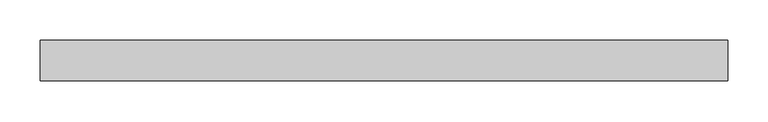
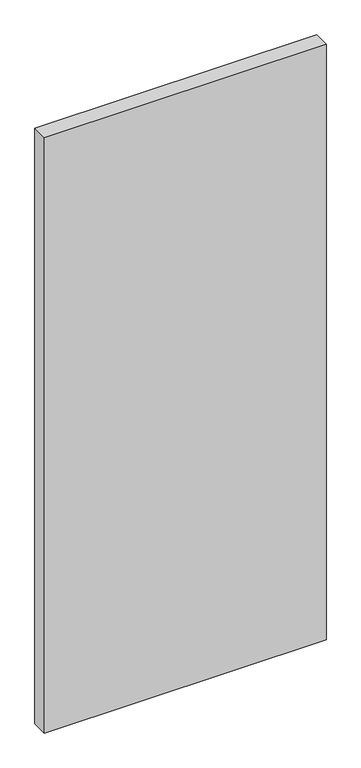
"""IFC4 building model written with IfcOpenShell, lengths in millimetres: plate geometry, Системная панель : Стекло(50мм)."""

from ifc_helpers import new_model, si_unit, origin, origin_with_axes, place, context, project, spatial, polyline, outline, extrude, source, transform, mapped, element, save


def plate_109dd5f9(model_context):
    return source(origin(), model_context, "Body", "SweptSolid", [
        extrude(outline(polyline([(425.0, -25.0), (-425.0, -25.0), (-425.0, 25.0), (425.0, 25.0), (425.0, -25.0)])), origin_with_axes(), (0.0, 0.0, 1.0), 1900.0),
    ])


if __name__ == "__main__":
    model = new_model("IFC4")
    model_context = context("Model", 3, world=origin())
    ifc_project = project(units=[si_unit("LENGTHUNIT", "METRE", prefix="MILLI")], contexts=[model_context])
    site = spatial("IfcSite", under=ifc_project)
    building = spatial("IfcBuilding", under=site)
    placement = place(None, origin())
    plate_shape = plate_109dd5f9(model_context)
    element("IfcPlate", 1, ObjectType="Системная панель : Стекло(50мм)", at=placement, inside=building, context=model_context, shape_type="MappedRepresentation", body=[
        mapped(plate_shape, transform((0.0, 0.0, 0.0), x_axis=(1.0, 0.0, 0.0), y_axis=(0.0, 1.0, 0.0), z_axis=(0.0, 0.0, 1.0))),
    ])
    save(model, "model.ifc")
